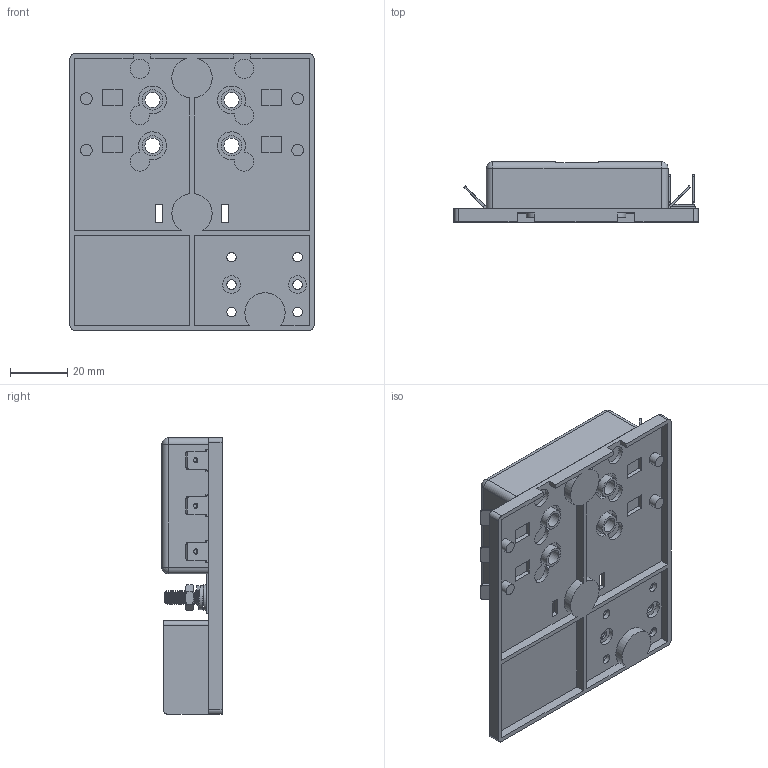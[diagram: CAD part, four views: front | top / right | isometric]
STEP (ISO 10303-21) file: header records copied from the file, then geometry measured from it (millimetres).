
FILE_DESCRIPTION(/* description */ (''),/* implementation_level */ '2;1');
FILE_NAME(/* name */ 'C:\Users\Hani\Desktop\work\BLC-106-G\BLC-106-G.stp',/* time_stamp */ '2020-06-12T19:27:00-07:00',/* author */ ('Hani'),/* organization */ (''),/* preprocessor_version */ 'ST-DEVELOPER v17',/* originating_system */ 'Autodesk Inventor 2019',/* authorisation */ '');
FILE_SCHEMA (('AUTOMOTIVE_DESIGN { 1 0 10303 214 3 1 1 }'));
Length unit declared in the file: inch
Products named in the file (12): BLC-106-G; BLC-106-G_1; BLOCK; plate; holder; plate2; STUD; WASHER; LOCK WASHER; HEX NUT; terminal; terminal_MIR1
Assembly tree (20 placements, depth 2):
  BLC-106-G
    BLC-106-G_1
    BLOCK
    plate
    holder  x2
    plate2
    STUD  x2
    WASHER  x2
    LOCK WASHER  x2
    HEX NUT  x2
    terminal  x3
    terminal_MIR1  x3
Bounding box: 85.24 x 21.01 x 96.52 mm (x, y, z)
Volume: 64533 mm3; surface area: 44720.4 mm2
Topology: 20 solids, 20 shells, 1036 faces, 2737 edges, 1772 vertices
Faces by surface type: plane 613, cylinder 275, cone 96, torus 34, bspline 14, sphere 4
Full cylindrical faces by diameter (mm): 1.905 x18, 3.302 x16, 3.769 x32, 3.795 x2, 4.064 x4, 4.775 x2, 4.801 x34, 4.826 x6, 4.953 x2, 5.309 x4, 5.41 x1, 6.147 x2, 6.706 x2, 7.087 x4, 8.992 x2, 10.617 x3
Entity records: 25540 total; most frequent: CARTESIAN_POINT 8069, ORIENTED_EDGE 3572, DIRECTION 3461, EDGE_CURVE 1786, LINE 1253, VECTOR 1253, VERTEX_POINT 1164, AXIS2_PLACEMENT_3D 1104
